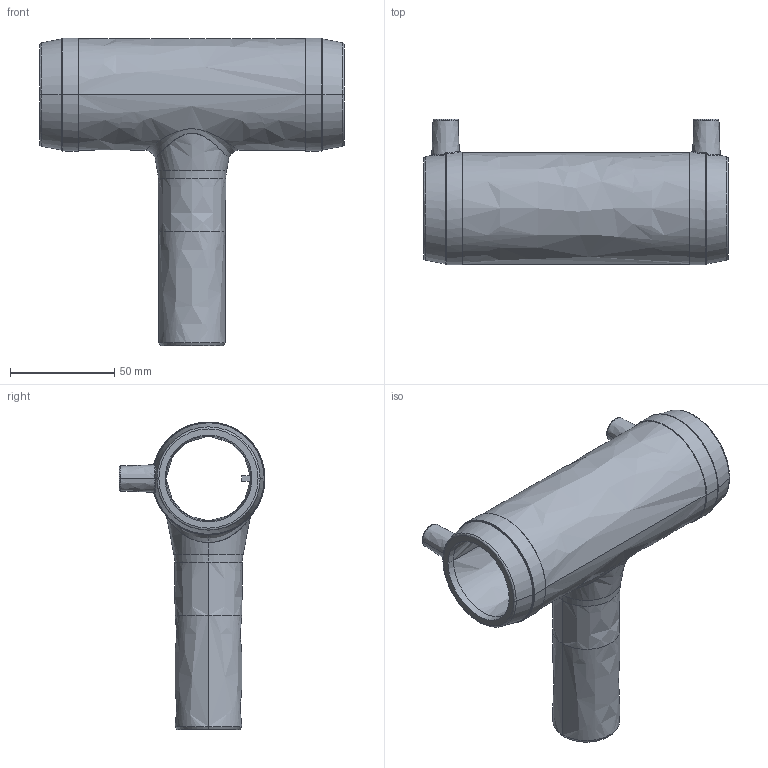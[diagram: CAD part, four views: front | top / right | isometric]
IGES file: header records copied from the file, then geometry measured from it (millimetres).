
Start section:  PTC IGES file: ta_red_d40-32_01.igs
Global section: file name: ta_red_d40-32_01.igs; native system: Pro/ENGINEER by Parametric Technology Corporation; preprocessor: 2011490; author: mtunjic; organization: Unknown; date: 20130812.132128; units: millimetre
Bounding box: 146 x 69.95 x 147.57 mm (x, y, z)
Surface area: 63073.8 mm2 (no closed solid volume)
Topology: 0 solids, 0 shells, 208 faces, 1016 edges, 1016 vertices
Faces by surface type: bspline 208
